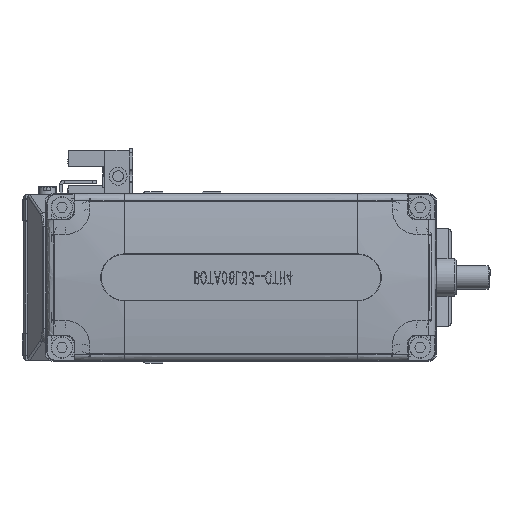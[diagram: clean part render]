
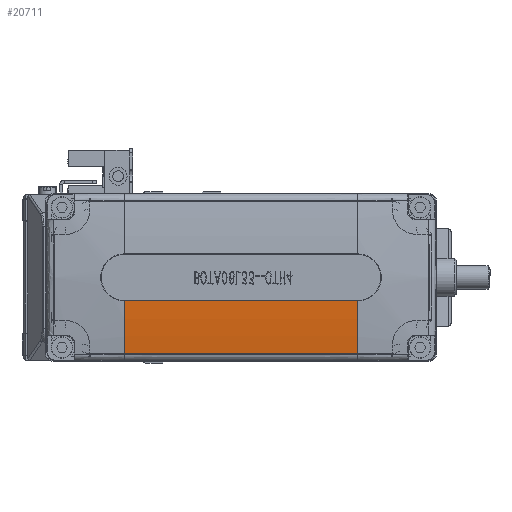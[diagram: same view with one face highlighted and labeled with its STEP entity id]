
A CAD part, left-side view. The second image highlights one B-rep face of the part: STEP entity #20711.
In plain terms, the highlighted cylindrical face has radius 142.959 mm (diameter 285.919 mm), a partial arc.
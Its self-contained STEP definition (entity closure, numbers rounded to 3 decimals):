
#99 = DIRECTION ( 'NONE',  ( 1., 0., 0. ) ) ;
#1439 = VERTEX_POINT ( 'NONE', #11398 ) ;
#4620 = CARTESIAN_POINT ( 'NONE',  ( 80.25, 21.5, -107.833 ) ) ;
#6705 = CARTESIAN_POINT ( 'NONE',  ( 80.25, 1.758, 33.756 ) ) ;
#7859 = LINE ( 'NONE', #27892, #8543 ) ;
#8543 = VECTOR ( 'NONE', #37858, 1000. ) ;
#8647 = CARTESIAN_POINT ( 'NONE',  ( 80.25, 15.5, 35. ) ) ;
#9434 = EDGE_CURVE ( 'NONE', #45592, #28589, #47580, .T. ) ;
#11094 = AXIS2_PLACEMENT_3D ( 'NONE', #25641, #31019, #59456 ) ;
#11346 = AXIS2_PLACEMENT_3D ( 'NONE', #49995, #16536, #40158 ) ;
#11398 = CARTESIAN_POINT ( 'NONE',  ( 20.25, 15.5, 35. ) ) ;
#12268 = EDGE_CURVE ( 'NONE', #1439, #45592, #7859, .T. ) ;
#13557 = CYLINDRICAL_SURFACE ( 'NONE', #11094, 142.959 ) ;
#13702 = EDGE_CURVE ( 'NONE', #46613, #28589, #46512, .T. ) ;
#15422 = CARTESIAN_POINT ( 'NONE',  ( 20.25, 1.758, 33.756 ) ) ;
#16536 = DIRECTION ( 'NONE',  ( 1., 0., 0. ) ) ;
#20711 = ADVANCED_FACE ( 'NONE', ( #48327 ), #13557, .T. ) ;
#24273 = CIRCLE ( 'NONE', #11346, 142.959 ) ;
#24491 = CARTESIAN_POINT ( 'NONE',  ( 80.25, 1.758, 33.756 ) ) ;
#25641 = CARTESIAN_POINT ( 'NONE',  ( 0.358, 21.5, -107.833 ) ) ;
#27892 = CARTESIAN_POINT ( 'NONE',  ( 20.25, 15.5, 35. ) ) ;
#28345 = AXIS2_PLACEMENT_3D ( 'NONE', #4620, #99, #42046 ) ;
#28589 = VERTEX_POINT ( 'NONE', #24491 ) ;
#29790 = EDGE_CURVE ( 'NONE', #1439, #46613, #24273, .T. ) ;
#31019 = DIRECTION ( 'NONE',  ( 1., 0., 0. ) ) ;
#36989 = ORIENTED_EDGE ( 'NONE', *, *, #13702, .T. ) ;
#37691 = ORIENTED_EDGE ( 'NONE', *, *, #12268, .F. ) ;
#37858 = DIRECTION ( 'NONE',  ( 1., 0., 0. ) ) ;
#40158 = DIRECTION ( 'NONE',  ( 0., 1., 0. ) ) ;
#40169 = CARTESIAN_POINT ( 'NONE',  ( 20.25, 1.758, 33.756 ) ) ;
#40384 = CARTESIAN_POINT ( 'NONE',  ( 40.25, 1.712, 33.75 ) ) ;
#42046 = DIRECTION ( 'NONE',  ( 0., 1., 0. ) ) ;
#42074 = EDGE_LOOP ( 'NONE', ( #45148, #36989, #60309, #37691 ) ) ;
#45148 = ORIENTED_EDGE ( 'NONE', *, *, #29790, .T. ) ;
#45592 = VERTEX_POINT ( 'NONE', #8647 ) ;
#46512 = B_SPLINE_CURVE_WITH_KNOTS ( 'NONE', 3,
 ( #40169, #40384, #49004, #6705 ),
 .UNSPECIFIED., .F., .F.,
 ( 4, 4 ),
 ( 0., 0.06 ),
 .UNSPECIFIED. ) ;
#46613 = VERTEX_POINT ( 'NONE', #15422 ) ;
#47580 = CIRCLE ( 'NONE', #28345, 142.959 ) ;
#48327 = FACE_OUTER_BOUND ( 'NONE', #42074, .T. ) ;
#49004 = CARTESIAN_POINT ( 'NONE',  ( 60.25, 1.712, 33.75 ) ) ;
#49995 = CARTESIAN_POINT ( 'NONE',  ( 20.25, 21.5, -107.833 ) ) ;
#59456 = DIRECTION ( 'NONE',  ( 0., 1., 0. ) ) ;
#60309 = ORIENTED_EDGE ( 'NONE', *, *, #9434, .F. ) ;
